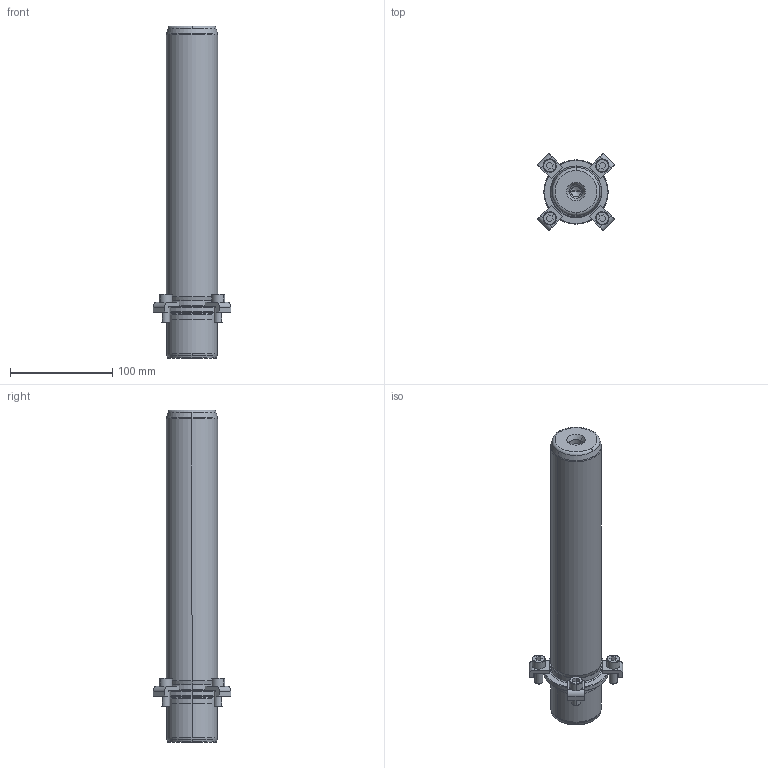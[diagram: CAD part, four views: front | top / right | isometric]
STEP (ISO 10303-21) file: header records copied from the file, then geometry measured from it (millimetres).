
FILE_DESCRIPTION((''),'2;1');
FILE_NAME('P21_050_280.stp','2008-12-23T13:44:53',(''),(''),'Mechanical Desktop 2009','Mechanical Desktop 2009',', , ');
FILE_SCHEMA(('CONFIG_CONTROL_DESIGN'));
Length unit declared in the file: millimetre
Products named in the file (2): Product; blmdl1
Assembly tree (1 placements, depth 2):
  Product
    blmdl1
Bounding box: 76.01 x 76.01 x 325 mm (x, y, z)
Volume: 646305.6 mm3; surface area: 68419.7 mm2
Topology: 9 solids, 9 shells, 195 faces, 477 edges, 309 vertices
Faces by surface type: plane 77, cylinder 52, cone 34, torus 16, bspline 16
Entity records: 6547 total; most frequent: CARTESIAN_POINT 1683, DIRECTION 1078, ORIENTED_EDGE 946, EDGE_CURVE 473, AXIS2_PLACEMENT_3D 424, VERTEX_POINT 309, CIRCLE 243, VECTOR 230
